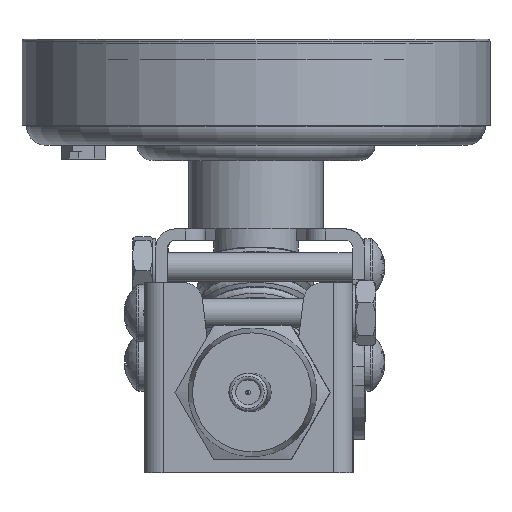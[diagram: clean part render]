
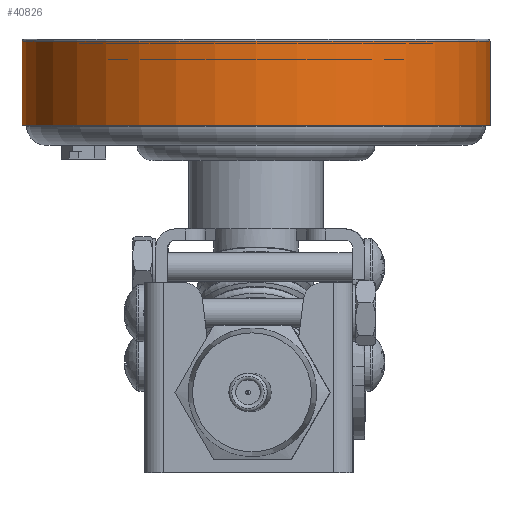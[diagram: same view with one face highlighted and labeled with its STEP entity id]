
A CAD part, front view. The second image highlights one B-rep face of the part: STEP entity #40826.
In plain terms, the highlighted cylindrical face has radius 38.735 mm (diameter 77.47 mm), a full revolution.
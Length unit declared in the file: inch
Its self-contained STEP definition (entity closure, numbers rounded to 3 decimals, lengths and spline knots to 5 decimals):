
#745=FACE_BOUND($,#6289,.T.);
#4093=FACE_OUTER_BOUND($,#6288,.T.);
#6288=EDGE_LOOP($,(#29076));
#6289=EDGE_LOOP($,(#29077));
#17207=CIRCLE($,#43420,1.525);
#17209=CIRCLE($,#43423,1.525);
#17997=VERTEX_POINT($,#57897);
#17999=VERTEX_POINT($,#57902);
#22209=EDGE_CURVE($,#17997,#17997,#17207,.T.);
#22211=EDGE_CURVE($,#17999,#17999,#17209,.T.);
#29076=ORIENTED_EDGE($,*,*,#22211,.F.);
#29077=ORIENTED_EDGE($,*,*,#22209,.F.);
#38441=CYLINDRICAL_SURFACE($,#43422,1.525);
#40826=ADVANCED_FACE($,(#4093,#745),#38441,.T.);
#43420=AXIS2_PLACEMENT_3D($,#57898,#46959,#46960);
#43422=AXIS2_PLACEMENT_3D($,#57901,#46963,#46964);
#43423=AXIS2_PLACEMENT_3D($,#57903,#46965,#46966);
#46959=DIRECTION('center_axis',(0.,0.,-1.));
#46960=DIRECTION('ref_axis',(-1.,0.,0.));
#46963=DIRECTION('center_axis',(0.,0.,-1.));
#46964=DIRECTION('ref_axis',(1.,0.,0.));
#46965=DIRECTION('center_axis',(0.,0.,1.));
#46966=DIRECTION('ref_axis',(-1.,0.,0.));
#57897=CARTESIAN_POINT('',(3.77938,3.56217,8.40754));
#57898=CARTESIAN_POINT('Origin',(2.25438,3.56217,8.40754));
#57901=CARTESIAN_POINT('Origin',(2.25438,3.56217,8.68904));
#57902=CARTESIAN_POINT('',(3.77938,3.56217,8.95517));
#57903=CARTESIAN_POINT('Origin',(2.25438,3.56217,8.95517));
